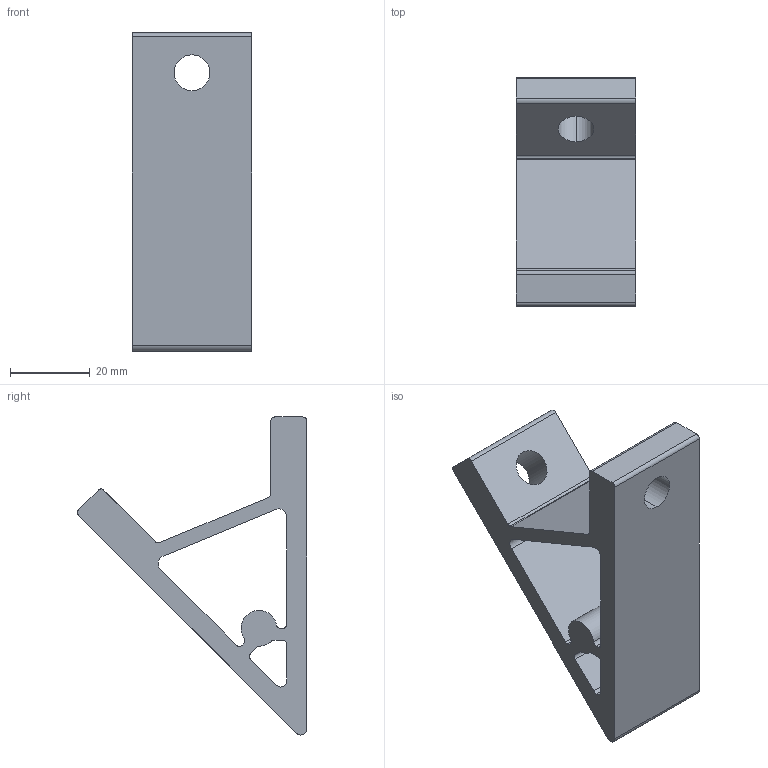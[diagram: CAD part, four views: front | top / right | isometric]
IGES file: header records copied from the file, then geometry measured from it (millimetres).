
Start section: SolidWorks IGES file using analytic representation for surfaces
Global section: file name: C:\Documents and Settings\Administrator\デスクトップ\指定保存後4回目\SolidWorks\SF\SF40・45\Bracket\ハードブラケットL・DE\SFJ-N36.IGS; native system: SolidWorks 2006 by SolidWorks Corporation; preprocessor: SolidWorks 2006 by SolidWorks Corporation; author: Administrator; date: 061218.095253; units: millimetre
Bounding box: 30 x 57.65 x 80 mm (x, y, z)
Volume: 32845.1 mm3; surface area: 14448.6 mm2
Topology: 1 solids, 1 shells, 46 faces, 132 edges, 88 vertices
Faces by surface type: revolution 28, plane 18
